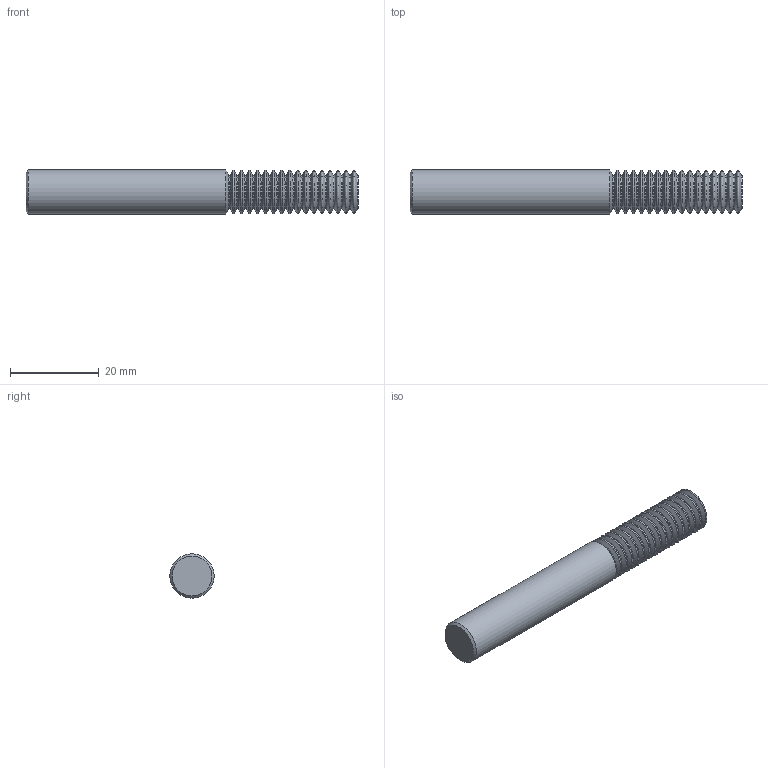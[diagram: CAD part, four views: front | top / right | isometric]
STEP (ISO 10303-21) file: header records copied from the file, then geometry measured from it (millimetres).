
FILE_DESCRIPTION(/* description */ (''),/* implementation_level */ '2;1');
FILE_NAME(/* name */ '00031823-TDM',/* time_stamp */ '2024-02-20T10:23:48+01:00',/* author */ (''),/* organization */ (''),/* preprocessor_version */ 'ST-DEVELOPER v16.5',/* originating_system */ 'HiCAD 2017 2201.0 Build 268',/* authorisation */ '');
FILE_SCHEMA (('AUTOMOTIVE_DESIGN { 1 0 10303 214 1 1 1 1 }'));
Length unit declared in the file: millimetre
Products named in the file (3): Root; ROTATIONSTEIL_0
Assembly tree (2 placements, depth 3):
  Root
    ROTATIONSTEIL_0
      ROTATIONSTEIL_0
Bounding box: 75 x 10 x 10 mm (x, y, z)
Volume: 5312.1 mm3; surface area: 3030.6 mm2
Topology: 2 solids, 2 shells, 106 faces, 208 edges, 106 vertices
Faces by surface type: torus 49, cone 34, cylinder 19, plane 4
Full cylindrical faces by diameter (mm): 7.546 x18, 10 x1
Entity records: 3204 total; most frequent: DIRECTION 428, CARTESIAN_POINT 318, AXIS2_PLACEMENT_3D 214, PRESENTATION_STYLE_ASSIGNMENT 210, COLOUR_RGB 210, DRAUGHTING_PRE_DEFINED_CURVE_FONT 208, CURVE_STYLE 208, OVER_RIDING_STYLED_ITEM 208
